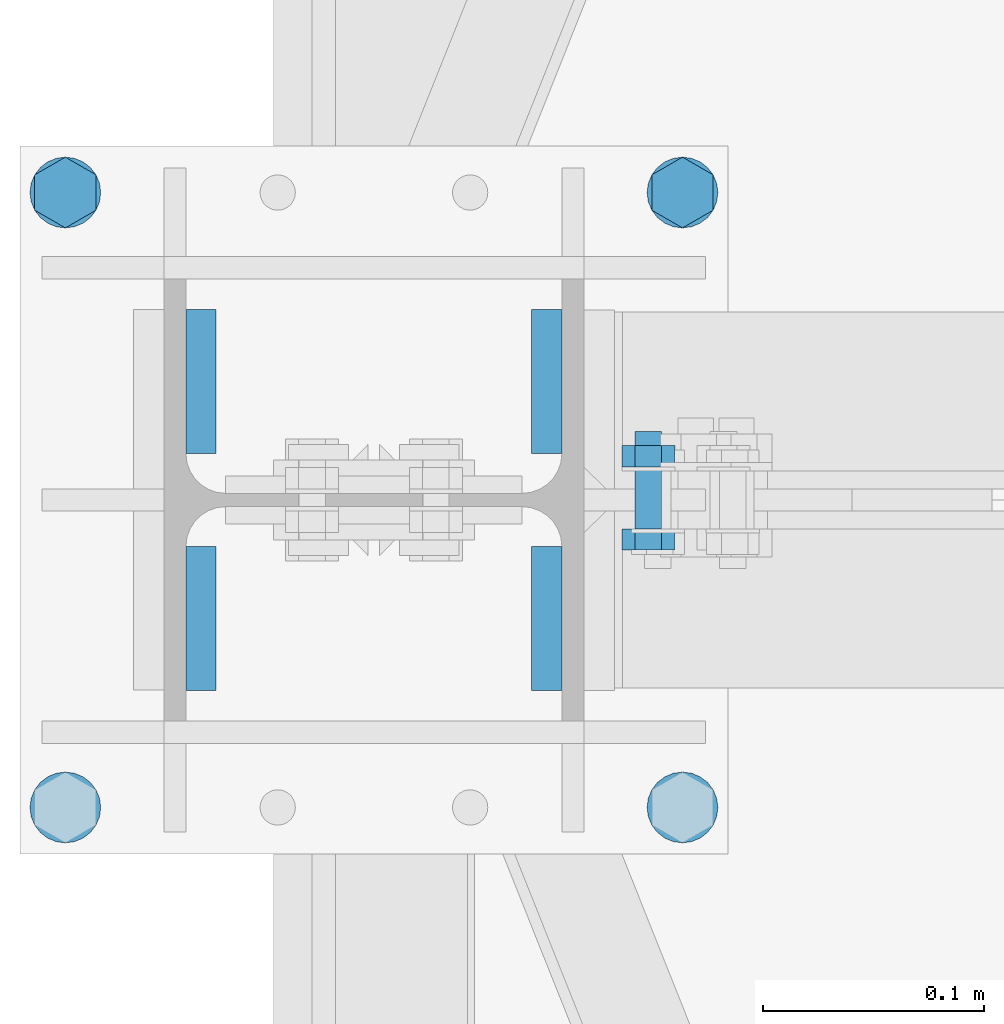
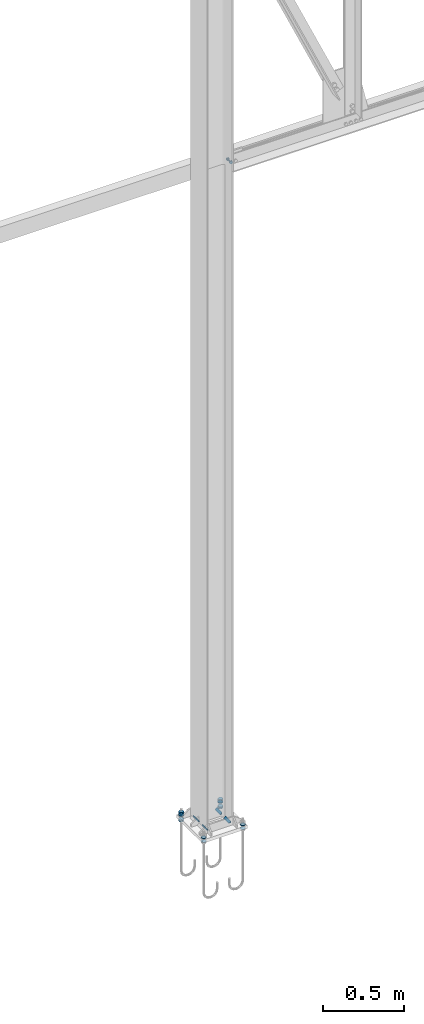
# One storey, part 137 of 251: 17 mechanical fasteners, 8 fasteners.
"""IFC4 building model written with IfcOpenShell, lengths in metres."""

import ifcopenshell
import ifcopenshell.guid

model = None  # the IFC model being written
_history = None  # IfcOwnerHistory: only IFC2X3 demands one
_inside = {}  # id of a spatial element -> (the spatial element, [elements in it])
_under = {}  # id of a project, library or spatial element -> (it, [spatial elements below it])
_declared = {}  # id of a project -> (the project, [libraries it declares])
_typed = {}  # id of a type object -> (the type object, [elements of that type])
_made_of = {}  # id of a material, layer set ... -> (it, [elements and type objects made of it])


def new_model(schema):
    """Start an empty IFC model of exactly this schema.

    Asked for "IFC4X3", IfcOpenShell would pick the latest addendum, in which some entities
    have other attributes; the version numbers below select the first issue.
    IFC2X3 requires an IfcOwnerHistory on every rooted entity: one is made here for all.
    """
    global model, _history
    if schema == "IFC4X3":
        model = ifcopenshell.file(schema_version=(4, 3, 0, 0))
    else:
        model = ifcopenshell.file(schema=schema)
    _inside.clear()
    _under.clear()
    _declared.clear()
    _typed.clear()
    _made_of.clear()
    _history = None
    if model.schema == "IFC2X3":
        org = make("IfcOrganization", Name="unknown")
        user = make(
            "IfcPersonAndOrganization",
            ThePerson=make("IfcPerson", FamilyName="unknown"),
            TheOrganization=org,
        )
        app = make(
            "IfcApplication",
            ApplicationDeveloper=org,
            Version="unknown",
            ApplicationFullName="unknown",
            ApplicationIdentifier="unknown",
        )
        _history = make(
            "IfcOwnerHistory",
            OwningUser=user,
            OwningApplication=app,
            ChangeAction="ADDED",
            CreationDate=0,
        )
    return model


def make(cls, **values):
    """One entity of the class cls with the attributes given. An attribute that is None is left unset."""
    return model.create_entity(
        cls, **{name: value for name, value in values.items() if value is not None}
    )


def rooted(cls, **values):
    """An entity with a GlobalId (a new one), such as an element, a storey or a relation."""
    return make(cls, GlobalId=ifcopenshell.guid.new(), OwnerHistory=_history, **values)


def si_unit(unit_type, name, prefix=None):
    """IfcSIUnit, for example si_unit("LENGTHUNIT", "METRE", prefix="MILLI")."""
    return make("IfcSIUnit", UnitType=unit_type, Prefix=prefix, Name=name)


def assignment(units):
    """IfcUnitAssignment: the units of a project."""
    return None if units is None else make("IfcUnitAssignment", Units=units)


def point(xyz):
    """IfcCartesianPoint."""
    return None if xyz is None else make("IfcCartesianPoint", Coordinates=xyz)


def direction(xyz):
    """IfcDirection."""
    return None if xyz is None else make("IfcDirection", DirectionRatios=xyz)


def frame(location, z_axis=None, x_axis=None):
    """IfcAxis2Placement3D, a coordinate frame: its origin and axes. An axis left out is left unset."""
    return make(
        "IfcAxis2Placement3D",
        Location=point(location),
        Axis=direction(z_axis),
        RefDirection=direction(x_axis),
    )


def origin_with_axes():
    """The frame at (0, 0, 0) with the z axis (0, 0, 1) and the x axis (1, 0, 0) written out."""
    return frame((0.0, 0.0, 0.0), z_axis=(0.0, 0.0, 1.0), x_axis=(1.0, 0.0, 0.0))


def place(relative_to, where):
    """IfcLocalPlacement: puts the frame where relative to a parent placement (None: the world)."""
    return make(
        "IfcLocalPlacement", PlacementRelTo=relative_to, RelativePlacement=where
    )


def context(
    kind, dimensions, precision=None, world=None, true_north=None, identifier=None
):
    """IfcGeometricRepresentationContext, for example the 3D "Model" context."""
    return make(
        "IfcGeometricRepresentationContext",
        ContextIdentifier=identifier,
        ContextType=kind,
        CoordinateSpaceDimension=dimensions,
        Precision=precision,
        WorldCoordinateSystem=world,
        TrueNorth=true_north,
    )


def project(units=None, contexts=None):
    """IfcProject with its units and contexts."""
    return rooted(
        "IfcProject",
        Name="project",
        RepresentationContexts=contexts,
        UnitsInContext=assignment(units),
    )


def spatial(cls, under=None, at=None, **own):
    """A site, building, storey or space (cls), placed at a placement, below another one or the project."""
    s = rooted(cls, ObjectPlacement=at, **own)
    if under is not None:
        _under.setdefault(under.id(), (under, []))[1].append(s)
    return s


def polyline(points):
    """IfcPolyline through the points."""
    return make("IfcPolyline", Points=[point(p) for p in points])


def outline(outer, holes=None, kind="AREA"):
    """IfcArbitraryClosedProfileDef: a profile drawn as a closed curve; with holes, ...WithVoids."""
    if holes is None:
        return make("IfcArbitraryClosedProfileDef", ProfileType=kind, OuterCurve=outer)
    return make(
        "IfcArbitraryProfileDefWithVoids",
        ProfileType=kind,
        OuterCurve=outer,
        InnerCurves=holes,
    )


def extrude(swept, where, along, depth):
    """IfcExtrudedAreaSolid: the profile swept, set in the frame where, extruded along a direction by depth."""
    return make(
        "IfcExtrudedAreaSolid",
        SweptArea=swept,
        Position=where,
        ExtrudedDirection=direction(along),
        Depth=depth,
    )


def shape(context_of_items, identifier, shape_type, items):
    """IfcShapeRepresentation: the items that make up one representation, for example the "Body"."""
    return make(
        "IfcShapeRepresentation",
        ContextOfItems=context_of_items,
        RepresentationIdentifier=identifier,
        RepresentationType=shape_type,
        Items=items,
    )


def made_of(thing, what):
    """Note that an element or type object is made of a material, layer set ...; save() writes the relation."""
    if what is not None:
        _made_of.setdefault(what.id(), (what, []))[1].append(thing)
    return thing


def type_object(cls, material=None, **own):
    """A type object (cls), such as IfcWallType, which elements share."""
    return made_of(rooted(cls, **own), material)


def element(
    cls,
    number,
    at=None,
    inside=None,
    cuts=None,
    type_object=None,
    material=None,
    context=None,
    identifier="Body",
    shape_type=None,
    held_by="IfcProductDefinitionShape",
    body=None,
    shapes=None,
    **own,
):
    """One element of the class cls, such as IfcWall. Its Tag is "e" and its number.

    at: its placement. inside: the storey or other place that contains it. cuts: it is an
    opening in that element (IfcRelVoidsElement). A single representation is given by context,
    identifier, shape_type and body (its items); several are given by shapes. held_by: the class
    of the entity that holds the representations. save() writes the other relations.
    """
    e = rooted(cls, Tag="e%d" % number, ObjectPlacement=at, **own)
    if body is not None:
        shapes = [shape(context, identifier, shape_type, body)]
    if shapes is not None:
        e.Representation = make(held_by, Representations=shapes)
    if inside is not None:
        _inside.setdefault(inside.id(), (inside, []))[1].append(e)
    if cuts is not None:
        rooted(
            "IfcRelVoidsElement", RelatingBuildingElement=cuts, RelatedOpeningElement=e
        )
    if type_object is not None:
        _typed.setdefault(type_object.id(), (type_object, []))[1].append(e)
    return made_of(e, material)


def aggregate(whole, parts):
    """IfcRelAggregates: a whole, such as a stair, and the parts it consists of."""
    return rooted("IfcRelAggregates", RelatingObject=whole, RelatedObjects=parts)


def save(model, path):
    """Write the relations noted so far, then the file.

    IfcRelAggregates (storeys below a building ...), IfcRelContainedInSpatialStructure (elements
    in a storey), IfcRelDefinesByType, IfcRelAssociatesMaterial and IfcRelDeclares: one each for
    every whole, place, type object, material and project.
    """
    for whole, parts in _under.values():
        aggregate(whole, parts)
    for where, things in _inside.values():
        rooted(
            "IfcRelContainedInSpatialStructure",
            RelatedElements=things,
            RelatingStructure=where,
        )
    for kind, things in _typed.values():
        rooted("IfcRelDefinesByType", RelatedObjects=things, RelatingType=kind)
    for what, things in _made_of.values():
        rooted("IfcRelAssociatesMaterial", RelatedObjects=things, RelatingMaterial=what)
    for by, libraries in _declared.values():
        rooted("IfcRelDeclares", RelatingContext=by, RelatedDefinitions=libraries)
    model.write(path)


model = new_model("IFC4")

# Units and contexts
model_context = context("Model", 3, precision=1e-05, world=origin_with_axes())
ifc_project = project(units=[si_unit("LENGTHUNIT", "METRE"), si_unit("AREAUNIT", "SQUARE_METRE"), si_unit("VOLUMEUNIT", "CUBIC_METRE"), si_unit("MASSUNIT", "GRAM", prefix="KILO"), si_unit("TIMEUNIT", "SECOND"), si_unit("PLANEANGLEUNIT", "RADIAN"), si_unit("SOLIDANGLEUNIT", "STERADIAN"), si_unit("THERMODYNAMICTEMPERATUREUNIT", "DEGREE_CELSIUS")], contexts=[model_context])

# Site, building, storey
placement_1 = place(None, origin_with_axes())
site = spatial("IfcSite", under=ifc_project, at=placement_1, Name="Italia", CompositionType="ELEMENT")
building = spatial("IfcBuilding", under=site, at=placement_1, Name="Deposito", CompositionType="ELEMENT")
storey = spatial("IfcBuildingStorey", under=building, at=placement_1, Name="Storey 0", CompositionType="ELEMENT", Elevation=0.0)

# Fasteners
fastener_type_1 = type_object("IfcFastenerType", Name="Collegamenti 0014_-001 0016_-054 0018_-056 0032_-002 0033_-058 0047_-003 0048_-060 0062_-004 0063_-005 0079_-008", PredefinedType="WELD")
placement_2 = place(placement_1, origin_with_axes())
fastener_1_placement = place(placement_2, origin_with_axes())
element("IfcFastener", 1, at=fastener_1_placement, inside=storey, type_object=fastener_type_1, Name="Collegamenti 0014_-001 0016_-054 0018_-056 0032_-002 0033_-058 0047_-003 0048_-060 0062_-004 0063_-005 0079_-008", context=model_context, shape_type="SweptSolid", body=[
    extrude(outline(polyline([(0.0, 0.0), (0.0137482, 0.0141734), (0.0137482, 0.0), (0.0, 0.0)])), frame((5.9787, 15.021, 0.07495), z_axis=(0.0, 1.0, 0.0), x_axis=(-1.0, 0.0, 0.0)), (0.0, 0.0, 1.0), 0.0650997),
])
fastener_type_2 = type_object("IfcFastenerType", Name="Collegamenti 0014_-001 0016_-054 0018_-056 0032_-002 0033_-058 0047_-003 0048_-060 0062_-004 0063_-005 0079_-008", PredefinedType="WELD")
fastener_2_placement = place(placement_2, origin_with_axes())
element("IfcFastener", 2, at=fastener_2_placement, inside=storey, type_object=fastener_type_2, Name="Collegamenti 0014_-001 0016_-054 0018_-056 0032_-002 0033_-058 0047_-003 0048_-060 0062_-004 0063_-005 0079_-008", context=model_context, shape_type="SweptSolid", body=[
    extrude(outline(polyline([(0.0, 0.0), (0.0137482, 0.0141734), (0.0137482, 0.0), (0.0, 0.0)])), frame((6.1213, 15.0861, 0.07495), z_axis=(0.0, -1.0, 0.0), x_axis=(1.0, 0.0, 0.0)), (0.0, 0.0, 1.0), 0.0650997),
])
fastener_type_3 = type_object("IfcFastenerType", Name="Collegamenti 0014_-001 0016_-054 0018_-056 0032_-002 0033_-058 0047_-003 0048_-060 0062_-004 0063_-005 0079_-008", PredefinedType="WELD")
fastener_3_placement = place(placement_2, origin_with_axes())
element("IfcFastener", 3, at=fastener_3_placement, inside=storey, type_object=fastener_type_3, Name="Collegamenti 0014_-001 0016_-054 0018_-056 0032_-002 0033_-058 0047_-003 0048_-060 0062_-004 0063_-005 0079_-008", context=model_context, shape_type="SweptSolid", body=[
    extrude(outline(polyline([(0.0, 0.0), (0.0137482, 0.0141734), (0.0137482, 0.0), (0.0, 0.0)])), frame((6.1213, 14.979, 0.07495), z_axis=(0.0, -1.0, 0.0), x_axis=(1.0, 0.0, 0.0)), (0.0, 0.0, 1.0), 0.0650997),
])
fastener_type_4 = type_object("IfcFastenerType", Name="Collegamenti 0014_-001 0016_-054 0018_-056 0032_-002 0033_-058 0047_-003 0048_-060 0062_-004 0063_-005 0079_-008", PredefinedType="WELD")
fastener_4_placement = place(placement_2, origin_with_axes())
element("IfcFastener", 4, at=fastener_4_placement, inside=storey, type_object=fastener_type_4, Name="Collegamenti 0014_-001 0016_-054 0018_-056 0032_-002 0033_-058 0047_-003 0048_-060 0062_-004 0063_-005 0079_-008", context=model_context, shape_type="SweptSolid", body=[
    extrude(outline(polyline([(0.0, 0.0), (0.0137482, 0.0141734), (0.0137482, 0.0), (0.0, 0.0)])), frame((5.9787, 14.9139, 0.07495), z_axis=(0.0, 1.0, 0.0), x_axis=(-1.0, 0.0, 0.0)), (0.0, 0.0, 1.0), 0.0650997),
])
fastener_type_5 = type_object("IfcFastenerType", Name="Collegamenti 0014_-001 0016_-054 0018_-056 0032_-002 0033_-058 0047_-003 0048_-060 0062_-004 0063_-005 0079_-008", PredefinedType="WELD")
fastener_5_placement = place(placement_2, origin_with_axes())
element("IfcFastener", 5, at=fastener_5_placement, inside=storey, type_object=fastener_type_5, Name="Collegamenti 0014_-001 0016_-054 0018_-056 0032_-002 0033_-058 0047_-003 0048_-060 0062_-004 0063_-005 0079_-008", context=model_context, shape_type="SweptSolid", body=[
    extrude(outline(polyline([(0.0, 0.0), (0.0137482, 0.0141734), (0.0137482, 0.0), (0.0, 0.0)])), frame((5.9787, 15.021, 0.07495), z_axis=(0.0, 1.0, 0.0), x_axis=(-1.0, 0.0, 0.0)), (0.0, 0.0, 1.0), 0.0650997),
])
fastener_type_6 = type_object("IfcFastenerType", Name="Collegamenti 0014_-001 0016_-054 0018_-056 0032_-002 0033_-058 0047_-003 0048_-060 0062_-004 0063_-005 0079_-008", PredefinedType="WELD")
fastener_6_placement = place(placement_2, origin_with_axes())
element("IfcFastener", 6, at=fastener_6_placement, inside=storey, type_object=fastener_type_6, Name="Collegamenti 0014_-001 0016_-054 0018_-056 0032_-002 0033_-058 0047_-003 0048_-060 0062_-004 0063_-005 0079_-008", context=model_context, shape_type="SweptSolid", body=[
    extrude(outline(polyline([(0.0, 0.0), (0.0137482, 0.0141734), (0.0137482, 0.0), (0.0, 0.0)])), frame((6.1213, 15.0861, 0.07495), z_axis=(0.0, -1.0, 0.0), x_axis=(1.0, 0.0, 0.0)), (0.0, 0.0, 1.0), 0.0650997),
])
fastener_type_7 = type_object("IfcFastenerType", Name="Collegamenti 0014_-001 0016_-054 0018_-056 0032_-002 0033_-058 0047_-003 0048_-060 0062_-004 0063_-005 0079_-008", PredefinedType="WELD")
fastener_7_placement = place(placement_2, origin_with_axes())
element("IfcFastener", 7, at=fastener_7_placement, inside=storey, type_object=fastener_type_7, Name="Collegamenti 0014_-001 0016_-054 0018_-056 0032_-002 0033_-058 0047_-003 0048_-060 0062_-004 0063_-005 0079_-008", context=model_context, shape_type="SweptSolid", body=[
    extrude(outline(polyline([(0.0, 0.0), (0.0137482, 0.0141734), (0.0137482, 0.0), (0.0, 0.0)])), frame((6.1213, 14.979, 0.07495), z_axis=(0.0, -1.0, 0.0), x_axis=(1.0, 0.0, 0.0)), (0.0, 0.0, 1.0), 0.0650997),
])
fastener_type_8 = type_object("IfcFastenerType", Name="Collegamenti 0014_-001 0016_-054 0018_-056 0032_-002 0033_-058 0047_-003 0048_-060 0062_-004 0063_-005 0079_-008", PredefinedType="WELD")
fastener_8_placement = place(placement_2, origin_with_axes())
element("IfcFastener", 8, at=fastener_8_placement, inside=storey, type_object=fastener_type_8, Name="Collegamenti 0014_-001 0016_-054 0018_-056 0032_-002 0033_-058 0047_-003 0048_-060 0062_-004 0063_-005 0079_-008", context=model_context, shape_type="SweptSolid", body=[
    extrude(outline(polyline([(0.0, 0.0), (0.0137482, 0.0141734), (0.0137482, 0.0), (0.0, 0.0)])), frame((5.9787, 14.9139, 0.07495), z_axis=(0.0, 1.0, 0.0), x_axis=(-1.0, 0.0, 0.0)), (0.0, 0.0, 1.0), 0.0650997),
])

# Mechanical fasteners
mechanical_fastener_type_1 = type_object("IfcMechanicalFastenerType", Name="Collegamenti 0014_-001 0016_-054 0018_-056 0032_-002 0033_-058 0047_-003 0048_-060 0062_-004 0063_-005 0079_-008", PredefinedType="BOLT")
mechanical_fastener_1_placement = place(placement_2, origin_with_axes())
element("IfcMechanicalFastener", 9, at=mechanical_fastener_1_placement, inside=storey, type_object=mechanical_fastener_type_1, Name="Collegamenti 0014_-001 0016_-054 0018_-056 0032_-002 0033_-058 0047_-003 0048_-060 0062_-004 0063_-005 0079_-008", NominalDiameter=0.032, context=model_context, shape_type="SweptSolid", body=[
    extrude(outline(polyline([(0.0, 0.0), (-0.000544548, -0.00414133), (-0.00214386, -0.0079999), (-0.00468636, -0.0113139), (-0.00799942, -0.0138564), (-0.0118589, -0.0154548), (-0.0159998, -0.0159998), (-0.0201406, -0.0154548), (-0.0240002, -0.0138564), (-0.0273132, -0.0113139), (-0.0298557, -0.0079999), (-0.031455, -0.00414133), (-0.0319996, 0.0), (-0.031455, 0.00414133), (-0.0298557, 0.0079999), (-0.0273132, 0.0113139), (-0.0240002, 0.0138564), (-0.0201406, 0.0154548), (-0.0159998, 0.0159998), (-0.0118589, 0.0154548), (-0.00799942, 0.0138564), (-0.00468636, 0.0113139), (-0.00214386, 0.0079999), (-0.000544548, 0.00414133), (0.0, 0.0)])), frame((6.1895, 14.877, 0.075), z_axis=(0.0, 0.0, 1.0), x_axis=(0.0, 1.0, 0.0)), (0.0, 0.0, 1.0), 0.00399999),
])
mechanical_fastener_type_2 = type_object("IfcMechanicalFastenerType", Name="Collegamenti 0014_-001 0016_-054 0018_-056 0032_-002 0033_-058 0047_-003 0048_-060 0062_-004 0063_-005 0079_-008", PredefinedType="BOLT")
mechanical_fastener_2_placement = place(placement_2, origin_with_axes())
element("IfcMechanicalFastener", 10, at=mechanical_fastener_2_placement, inside=storey, type_object=mechanical_fastener_type_2, Name="Collegamenti 0014_-001 0016_-054 0018_-056 0032_-002 0033_-058 0047_-003 0048_-060 0062_-004 0063_-005 0079_-008", NominalDiameter=0.032, context=model_context, shape_type="SweptSolid", body=[
    extrude(outline(polyline([(0.0, 0.0), (-0.000544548, -0.00414133), (-0.00214386, -0.0079999), (-0.00468636, -0.0113139), (-0.00799942, -0.0138564), (-0.0118589, -0.0154548), (-0.0159998, -0.0159998), (-0.0201406, -0.0154548), (-0.0240002, -0.0138564), (-0.0273132, -0.0113139), (-0.0298557, -0.0079999), (-0.031455, -0.00414133), (-0.0319996, 0.0), (-0.031455, 0.00414133), (-0.0298557, 0.0079999), (-0.0273132, 0.0113139), (-0.0240002, 0.0138564), (-0.0201406, 0.0154548), (-0.0159998, 0.0159998), (-0.0118589, 0.0154548), (-0.00799942, 0.0138564), (-0.00468636, 0.0113139), (-0.00214386, 0.0079999), (-0.000544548, 0.00414133), (0.0, 0.0)])), frame((6.1895, 14.877, 0.046), z_axis=(0.0, 0.0, 1.0), x_axis=(0.0, 1.0, 0.0)), (0.0, 0.0, 1.0), 0.004),
])
mechanical_fastener_type_3 = type_object("IfcMechanicalFastenerType", Name="Collegamenti 0014_-001 0016_-054 0018_-056 0032_-002 0033_-058 0047_-003 0048_-060 0062_-004 0063_-005 0079_-008", PredefinedType="BOLT")
mechanical_fastener_3_placement = place(placement_2, origin_with_axes())
element("IfcMechanicalFastener", 11, at=mechanical_fastener_3_placement, inside=storey, type_object=mechanical_fastener_type_3, Name="Collegamenti 0014_-001 0016_-054 0018_-056 0032_-002 0033_-058 0047_-003 0048_-060 0062_-004 0063_-005 0079_-008", NominalDiameter=0.0160001, context=model_context, shape_type="SweptSolid", body=[
    extrude(outline(polyline([(0.0, 0.0), (-0.0160007, 0.0), (-0.0240002, 0.0138569), (-0.0160007, 0.0277138), (0.0, 0.0277138), (0.00799942, 0.0138569), (0.0, 0.0)])), frame((6.20336, 15.147, 0.079), z_axis=(0.0, 0.0, 1.0), x_axis=(0.0, 1.0, 0.0)), (0.0, 0.0, 1.0), 0.0128),
])
mechanical_fastener_type_4 = type_object("IfcMechanicalFastenerType", Name="Collegamenti 0014_-001 0016_-054 0018_-056 0032_-002 0033_-058 0047_-003 0048_-060 0062_-004 0063_-005 0079_-008", PredefinedType="BOLT")
mechanical_fastener_4_placement = place(placement_2, origin_with_axes())
element("IfcMechanicalFastener", 12, at=mechanical_fastener_4_placement, inside=storey, type_object=mechanical_fastener_type_4, Name="Collegamenti 0014_-001 0016_-054 0018_-056 0032_-002 0033_-058 0047_-003 0048_-060 0062_-004 0063_-005 0079_-008", NominalDiameter=0.0160001, context=model_context, shape_type="SweptSolid", body=[
    extrude(outline(polyline([(0.0, 0.0), (-0.0160007, 0.0), (-0.0240002, 0.0138569), (-0.0160007, 0.0277138), (0.0, 0.0277138), (0.00799942, 0.0138569), (0.0, 0.0)])), frame((6.20336, 15.147, 0.0918), z_axis=(0.0, 0.0, 1.0), x_axis=(0.0, 1.0, 0.0)), (0.0, 0.0, 1.0), 0.0128),
])
mechanical_fastener_type_5 = type_object("IfcMechanicalFastenerType", Name="Collegamenti 0014_-001 0016_-054 0018_-056 0032_-002 0033_-058 0047_-003 0048_-060 0062_-004 0063_-005 0079_-008", PredefinedType="BOLT")
mechanical_fastener_5_placement = place(placement_2, origin_with_axes())
element("IfcMechanicalFastener", 13, at=mechanical_fastener_5_placement, inside=storey, type_object=mechanical_fastener_type_5, Name="Collegamenti 0014_-001 0016_-054 0018_-056 0032_-002 0033_-058 0047_-003 0048_-060 0062_-004 0063_-005 0079_-008", NominalDiameter=0.0160001, context=model_context, shape_type="SweptSolid", body=[
    extrude(outline(polyline([(0.0, 0.0), (-0.0160007, 0.0), (-0.0240002, 0.0138569), (-0.0160007, 0.0277138), (0.0, 0.0277138), (0.00799942, 0.0138569), (0.0, 0.0)])), frame((6.20336, 15.147, 0.0332), z_axis=(0.0, 0.0, 1.0), x_axis=(0.0, 1.0, 0.0)), (0.0, 0.0, 1.0), 0.0128),
])
mechanical_fastener_type_6 = type_object("IfcMechanicalFastenerType", Name="Collegamenti 0014_-001 0016_-054 0018_-056 0032_-002 0033_-058 0047_-003 0048_-060 0062_-004 0063_-005 0079_-008", PredefinedType="BOLT")
mechanical_fastener_6_placement = place(placement_2, origin_with_axes())
element("IfcMechanicalFastener", 14, at=mechanical_fastener_6_placement, inside=storey, type_object=mechanical_fastener_type_6, Name="Collegamenti 0014_-001 0016_-054 0018_-056 0032_-002 0033_-058 0047_-003 0048_-060 0062_-004 0063_-005 0079_-008", NominalDiameter=0.032, context=model_context, shape_type="SweptSolid", body=[
    extrude(outline(polyline([(0.0, 0.0), (-0.000544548, -0.00414133), (-0.00214386, -0.0079999), (-0.00468636, -0.0113139), (-0.00799942, -0.0138564), (-0.0118589, -0.0154548), (-0.0159998, -0.0159998), (-0.0201406, -0.0154548), (-0.0240002, -0.0138564), (-0.0273132, -0.0113139), (-0.0298557, -0.0079999), (-0.031455, -0.00414133), (-0.0319996, 0.0), (-0.031455, 0.00414133), (-0.0298557, 0.0079999), (-0.0273132, 0.0113139), (-0.0240002, 0.0138564), (-0.0201406, 0.0154548), (-0.0159998, 0.0159998), (-0.0118589, 0.0154548), (-0.00799942, 0.0138564), (-0.00468636, 0.0113139), (-0.00214386, 0.0079999), (-0.000544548, 0.00414133), (0.0, 0.0)])), frame((6.1895, 15.155, 0.075), z_axis=(0.0, 0.0, 1.0), x_axis=(0.0, 1.0, 0.0)), (0.0, 0.0, 1.0), 0.00399999),
])
mechanical_fastener_type_7 = type_object("IfcMechanicalFastenerType", Name="Collegamenti 0014_-001 0016_-054 0018_-056 0032_-002 0033_-058 0047_-003 0048_-060 0062_-004 0063_-005 0079_-008", PredefinedType="BOLT")
mechanical_fastener_7_placement = place(placement_2, origin_with_axes())
element("IfcMechanicalFastener", 15, at=mechanical_fastener_7_placement, inside=storey, type_object=mechanical_fastener_type_7, Name="Collegamenti 0014_-001 0016_-054 0018_-056 0032_-002 0033_-058 0047_-003 0048_-060 0062_-004 0063_-005 0079_-008", NominalDiameter=0.032, context=model_context, shape_type="SweptSolid", body=[
    extrude(outline(polyline([(0.0, 0.0), (-0.000544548, -0.00414133), (-0.00214386, -0.0079999), (-0.00468636, -0.0113139), (-0.00799942, -0.0138564), (-0.0118589, -0.0154548), (-0.0159998, -0.0159998), (-0.0201406, -0.0154548), (-0.0240002, -0.0138564), (-0.0273132, -0.0113139), (-0.0298557, -0.0079999), (-0.031455, -0.00414133), (-0.0319996, 0.0), (-0.031455, 0.00414133), (-0.0298557, 0.0079999), (-0.0273132, 0.0113139), (-0.0240002, 0.0138564), (-0.0201406, 0.0154548), (-0.0159998, 0.0159998), (-0.0118589, 0.0154548), (-0.00799942, 0.0138564), (-0.00468636, 0.0113139), (-0.00214386, 0.0079999), (-0.000544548, 0.00414133), (0.0, 0.0)])), frame((6.1895, 15.155, 0.046), z_axis=(0.0, 0.0, 1.0), x_axis=(0.0, 1.0, 0.0)), (0.0, 0.0, 1.0), 0.004),
])
mechanical_fastener_type_8 = type_object("IfcMechanicalFastenerType", Name="Collegamenti 0014_-001 0016_-054 0018_-056 0032_-002 0033_-058 0047_-003 0048_-060 0062_-004 0063_-005 0079_-008", PredefinedType="BOLT")
mechanical_fastener_8_placement = place(placement_2, origin_with_axes())
element("IfcMechanicalFastener", 16, at=mechanical_fastener_8_placement, inside=storey, type_object=mechanical_fastener_type_8, Name="Collegamenti 0014_-001 0016_-054 0018_-056 0032_-002 0033_-058 0047_-003 0048_-060 0062_-004 0063_-005 0079_-008", NominalDiameter=0.032, context=model_context, shape_type="SweptSolid", body=[
    extrude(outline(polyline([(0.0, 0.0), (-0.000544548, -0.00414133), (-0.00214386, -0.0079999), (-0.00468636, -0.0113139), (-0.00799942, -0.0138564), (-0.0118589, -0.0154548), (-0.0159998, -0.0159998), (-0.0201406, -0.0154548), (-0.0240002, -0.0138564), (-0.0273132, -0.0113139), (-0.0298557, -0.0079999), (-0.031455, -0.00414133), (-0.0319996, 0.0), (-0.031455, 0.00414133), (-0.0298557, 0.0079999), (-0.0273132, 0.0113139), (-0.0240002, 0.0138564), (-0.0201406, 0.0154548), (-0.0159998, 0.0159998), (-0.0118589, 0.0154548), (-0.00799942, 0.0138564), (-0.00468636, 0.0113139), (-0.00214386, 0.0079999), (-0.000544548, 0.00414133), (0.0, 0.0)])), frame((5.9105, 14.877, 0.075), z_axis=(0.0, 0.0, 1.0), x_axis=(0.0, 1.0, 0.0)), (0.0, 0.0, 1.0), 0.00399999),
])
mechanical_fastener_type_9 = type_object("IfcMechanicalFastenerType", Name="Collegamenti 0014_-001 0016_-054 0018_-056 0032_-002 0033_-058 0047_-003 0048_-060 0062_-004 0063_-005 0079_-008", PredefinedType="BOLT")
mechanical_fastener_9_placement = place(placement_2, origin_with_axes())
element("IfcMechanicalFastener", 17, at=mechanical_fastener_9_placement, inside=storey, type_object=mechanical_fastener_type_9, Name="Collegamenti 0014_-001 0016_-054 0018_-056 0032_-002 0033_-058 0047_-003 0048_-060 0062_-004 0063_-005 0079_-008", NominalDiameter=0.032, context=model_context, shape_type="SweptSolid", body=[
    extrude(outline(polyline([(0.0, 0.0), (-0.000544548, -0.00414133), (-0.00214386, -0.0079999), (-0.00468636, -0.0113139), (-0.00799942, -0.0138564), (-0.0118589, -0.0154548), (-0.0159998, -0.0159998), (-0.0201406, -0.0154548), (-0.0240002, -0.0138564), (-0.0273132, -0.0113139), (-0.0298557, -0.0079999), (-0.031455, -0.00414133), (-0.0319996, 0.0), (-0.031455, 0.00414133), (-0.0298557, 0.0079999), (-0.0273132, 0.0113139), (-0.0240002, 0.0138564), (-0.0201406, 0.0154548), (-0.0159998, 0.0159998), (-0.0118589, 0.0154548), (-0.00799942, 0.0138564), (-0.00468636, 0.0113139), (-0.00214386, 0.0079999), (-0.000544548, 0.00414133), (0.0, 0.0)])), frame((5.9105, 14.877, 0.046), z_axis=(0.0, 0.0, 1.0), x_axis=(0.0, 1.0, 0.0)), (0.0, 0.0, 1.0), 0.004),
])
mechanical_fastener_type_10 = type_object("IfcMechanicalFastenerType", Name="Collegamenti 0014_-001 0016_-054 0018_-056 0032_-002 0033_-058 0047_-003 0048_-060 0062_-004 0063_-005 0079_-008", PredefinedType="BOLT")
mechanical_fastener_10_placement = place(placement_2, origin_with_axes())
element("IfcMechanicalFastener", 18, at=mechanical_fastener_10_placement, inside=storey, type_object=mechanical_fastener_type_10, Name="Collegamenti 0014_-001 0016_-054 0018_-056 0032_-002 0033_-058 0047_-003 0048_-060 0062_-004 0063_-005 0079_-008", NominalDiameter=0.0160001, context=model_context, shape_type="SweptSolid", body=[
    extrude(outline(polyline([(0.0, 0.0), (-0.0160007, 0.0), (-0.0240002, 0.0138569), (-0.0160007, 0.0277138), (0.0, 0.0277138), (0.00799942, 0.0138569), (0.0, 0.0)])), frame((5.92436, 15.147, 0.079), z_axis=(0.0, 0.0, 1.0), x_axis=(0.0, 1.0, 0.0)), (0.0, 0.0, 1.0), 0.0128),
])
mechanical_fastener_type_11 = type_object("IfcMechanicalFastenerType", Name="Collegamenti 0014_-001 0016_-054 0018_-056 0032_-002 0033_-058 0047_-003 0048_-060 0062_-004 0063_-005 0079_-008", PredefinedType="BOLT")
mechanical_fastener_11_placement = place(placement_2, origin_with_axes())
element("IfcMechanicalFastener", 19, at=mechanical_fastener_11_placement, inside=storey, type_object=mechanical_fastener_type_11, Name="Collegamenti 0014_-001 0016_-054 0018_-056 0032_-002 0033_-058 0047_-003 0048_-060 0062_-004 0063_-005 0079_-008", NominalDiameter=0.0160001, context=model_context, shape_type="SweptSolid", body=[
    extrude(outline(polyline([(0.0, 0.0), (-0.0160007, 0.0), (-0.0240002, 0.0138569), (-0.0160007, 0.0277138), (0.0, 0.0277138), (0.00799942, 0.0138569), (0.0, 0.0)])), frame((5.92436, 15.147, 0.0918), z_axis=(0.0, 0.0, 1.0), x_axis=(0.0, 1.0, 0.0)), (0.0, 0.0, 1.0), 0.0128),
])
mechanical_fastener_type_12 = type_object("IfcMechanicalFastenerType", Name="Collegamenti 0014_-001 0016_-054 0018_-056 0032_-002 0033_-058 0047_-003 0048_-060 0062_-004 0063_-005 0079_-008", PredefinedType="BOLT")
mechanical_fastener_12_placement = place(placement_2, origin_with_axes())
element("IfcMechanicalFastener", 20, at=mechanical_fastener_12_placement, inside=storey, type_object=mechanical_fastener_type_12, Name="Collegamenti 0014_-001 0016_-054 0018_-056 0032_-002 0033_-058 0047_-003 0048_-060 0062_-004 0063_-005 0079_-008", NominalDiameter=0.0160001, context=model_context, shape_type="SweptSolid", body=[
    extrude(outline(polyline([(0.0, 0.0), (-0.0160007, 0.0), (-0.0240002, 0.0138569), (-0.0160007, 0.0277138), (0.0, 0.0277138), (0.00799942, 0.0138569), (0.0, 0.0)])), frame((5.92436, 15.147, 0.0332), z_axis=(0.0, 0.0, 1.0), x_axis=(0.0, 1.0, 0.0)), (0.0, 0.0, 1.0), 0.0128),
])
mechanical_fastener_type_13 = type_object("IfcMechanicalFastenerType", Name="Collegamenti 0014_-001 0016_-054 0018_-056 0032_-002 0033_-058 0047_-003 0048_-060 0062_-004 0063_-005 0079_-008", PredefinedType="BOLT")
mechanical_fastener_13_placement = place(placement_2, origin_with_axes())
element("IfcMechanicalFastener", 21, at=mechanical_fastener_13_placement, inside=storey, type_object=mechanical_fastener_type_13, Name="Collegamenti 0014_-001 0016_-054 0018_-056 0032_-002 0033_-058 0047_-003 0048_-060 0062_-004 0063_-005 0079_-008", NominalDiameter=0.032, context=model_context, shape_type="SweptSolid", body=[
    extrude(outline(polyline([(0.0, 0.0), (-0.000544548, -0.00414133), (-0.00214386, -0.0079999), (-0.00468636, -0.0113139), (-0.00799942, -0.0138564), (-0.0118589, -0.0154548), (-0.0159998, -0.0159998), (-0.0201406, -0.0154548), (-0.0240002, -0.0138564), (-0.0273132, -0.0113139), (-0.0298557, -0.0079999), (-0.031455, -0.00414133), (-0.0319996, 0.0), (-0.031455, 0.00414133), (-0.0298557, 0.0079999), (-0.0273132, 0.0113139), (-0.0240002, 0.0138564), (-0.0201406, 0.0154548), (-0.0159998, 0.0159998), (-0.0118589, 0.0154548), (-0.00799942, 0.0138564), (-0.00468636, 0.0113139), (-0.00214386, 0.0079999), (-0.000544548, 0.00414133), (0.0, 0.0)])), frame((5.9105, 15.155, 0.075), z_axis=(0.0, 0.0, 1.0), x_axis=(0.0, 1.0, 0.0)), (0.0, 0.0, 1.0), 0.00399999),
])
mechanical_fastener_type_14 = type_object("IfcMechanicalFastenerType", Name="Collegamenti 0014_-001 0016_-054 0018_-056 0032_-002 0033_-058 0047_-003 0048_-060 0062_-004 0063_-005 0079_-008", PredefinedType="BOLT")
mechanical_fastener_14_placement = place(placement_2, origin_with_axes())
element("IfcMechanicalFastener", 22, at=mechanical_fastener_14_placement, inside=storey, type_object=mechanical_fastener_type_14, Name="Collegamenti 0014_-001 0016_-054 0018_-056 0032_-002 0033_-058 0047_-003 0048_-060 0062_-004 0063_-005 0079_-008", NominalDiameter=0.032, context=model_context, shape_type="SweptSolid", body=[
    extrude(outline(polyline([(0.0, 0.0), (-0.000544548, -0.00414133), (-0.00214386, -0.0079999), (-0.00468636, -0.0113139), (-0.00799942, -0.0138564), (-0.0118589, -0.0154548), (-0.0159998, -0.0159998), (-0.0201406, -0.0154548), (-0.0240002, -0.0138564), (-0.0273132, -0.0113139), (-0.0298557, -0.0079999), (-0.031455, -0.00414133), (-0.0319996, 0.0), (-0.031455, 0.00414133), (-0.0298557, 0.0079999), (-0.0273132, 0.0113139), (-0.0240002, 0.0138564), (-0.0201406, 0.0154548), (-0.0159998, 0.0159998), (-0.0118589, 0.0154548), (-0.00799942, 0.0138564), (-0.00468636, 0.0113139), (-0.00214386, 0.0079999), (-0.000544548, 0.00414133), (0.0, 0.0)])), frame((5.9105, 15.155, 0.046), z_axis=(0.0, 0.0, 1.0), x_axis=(0.0, 1.0, 0.0)), (0.0, 0.0, 1.0), 0.004),
])
mechanical_fastener_type_15 = type_object("IfcMechanicalFastenerType", Name="Reticolare 5", PredefinedType="BOLT")
mechanical_fastener_15_placement = place(placement_2, origin_with_axes())
element("IfcMechanicalFastener", 23, at=mechanical_fastener_15_placement, inside=storey, type_object=mechanical_fastener_type_15, Name="Reticolare 5", NominalDiameter=0.0119999, context=model_context, shape_type="SweptSolid", body=[
    extrude(outline(polyline([(0.0, 0.0), (-0.0120001, 0.0), (-0.0180001, 0.0103922), (-0.0120001, 0.0207844), (0.0, 0.0207844), (0.00600004, 0.0103922), (0.0, 0.0)])), frame((6.18005, 14.987, 4.99661), z_axis=(0.0, -1.0, 0.0), x_axis=(1.0, 0.0, 0.0)), (0.0, 0.0, 1.0), 0.00960064),
])
mechanical_fastener_type_16 = type_object("IfcMechanicalFastenerType", Name="Reticolare 5", PredefinedType="BOLT")
mechanical_fastener_16_placement = place(placement_2, origin_with_axes())
element("IfcMechanicalFastener", 24, at=mechanical_fastener_16_placement, inside=storey, type_object=mechanical_fastener_type_16, Name="Reticolare 5", NominalDiameter=0.012, context=model_context, shape_type="SweptSolid", body=[
    extrude(outline(polyline([(0.0, 0.0), (-0.000204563, -0.00155306), (-0.000803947, -0.00299978), (-0.00175762, -0.00424242), (-0.00300026, -0.00519609), (-0.00444698, -0.00579548), (-0.00600004, -0.00600004), (-0.0075531, -0.00579548), (-0.00899982, -0.00519609), (-0.0102425, -0.00424242), (-0.0111961, -0.00299978), (-0.0117955, -0.00155306), (-0.0120001, 0.0), (-0.0117955, 0.00155306), (-0.0111961, 0.00299978), (-0.0102425, 0.00424242), (-0.00899982, 0.00519609), (-0.0075531, 0.00579548), (-0.00600004, 0.00600004), (-0.00444698, 0.00579548), (-0.00300026, 0.00519609), (-0.00175762, 0.00424242), (-0.000803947, 0.00299978), (-0.000204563, 0.00155306), (0.0, 0.0)])), frame((6.18005, 15.031, 5.007), z_axis=(0.0, -1.0, 0.0), x_axis=(1.0, 0.0, 0.0)), (0.0, 0.0, 1.0), 0.0439997),
])
mechanical_fastener_type_17 = type_object("IfcMechanicalFastenerType", Name="Reticolare 5", PredefinedType="BOLT")
mechanical_fastener_17_placement = place(placement_2, origin_with_axes())
element("IfcMechanicalFastener", 25, at=mechanical_fastener_17_placement, inside=storey, type_object=mechanical_fastener_type_17, Name="Reticolare 5", NominalDiameter=0.0119999, context=model_context, shape_type="SweptSolid", body=[
    extrude(outline(polyline([(0.0, 0.0), (-0.0120001, 0.0), (-0.0180001, 0.0103922), (-0.0120001, 0.0207844), (0.0, 0.0207844), (0.00600004, 0.0103922), (0.0, 0.0)])), frame((6.18005, 15.0246, 4.99661), z_axis=(0.0, -1.0, 0.0), x_axis=(1.0, 0.0, 0.0)), (0.0, 0.0, 1.0), 0.00959969),
])

save(model, "model.ifc")
